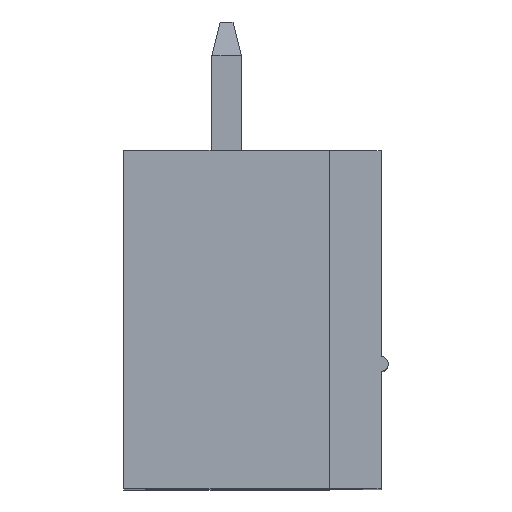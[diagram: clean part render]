
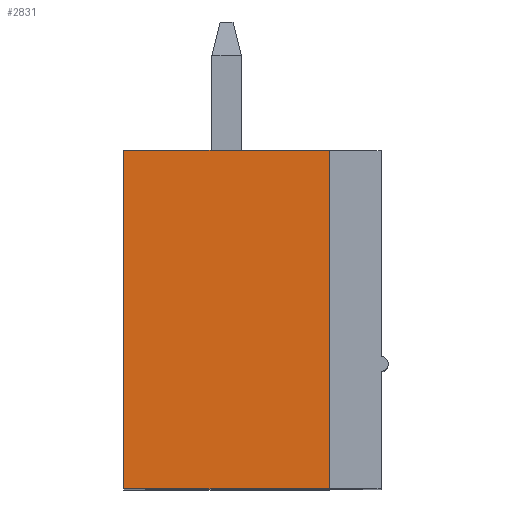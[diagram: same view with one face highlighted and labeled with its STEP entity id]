
A CAD part, top view. The second image highlights one B-rep face of the part: STEP entity #2831.
In plain terms, the highlighted planar face has unit normal (0, 0, 1).
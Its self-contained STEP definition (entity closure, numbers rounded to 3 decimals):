
#452=DIRECTION('',(0.,-1.,0.));
#453=VECTOR('',#452,9.2);
#454=CARTESIAN_POINT('',(5.775,9.2,-4.182));
#455=LINE('',#454,#453);
#456=DIRECTION('',(-1.,0.,0.));
#457=VECTOR('',#456,5.6);
#458=CARTESIAN_POINT('',(5.775,0.,-4.182));
#459=LINE('',#458,#457);
#460=DIRECTION('',(0.,1.,0.));
#461=VECTOR('',#460,9.2);
#462=CARTESIAN_POINT('',(0.175,0.,-4.182));
#463=LINE('',#462,#461);
#464=DIRECTION('',(1.,0.,0.));
#465=VECTOR('',#464,5.6);
#466=CARTESIAN_POINT('',(0.175,9.2,-4.182));
#467=LINE('',#466,#465);
#1656=CARTESIAN_POINT('',(0.175,0.,-4.182));
#1657=VERTEX_POINT('',#1656);
#1658=CARTESIAN_POINT('',(5.775,0.,-4.182));
#1659=VERTEX_POINT('',#1658);
#1784=CARTESIAN_POINT('',(0.175,9.2,-4.182));
#1785=VERTEX_POINT('',#1784);
#1838=CARTESIAN_POINT('',(5.775,9.2,-4.182));
#1839=VERTEX_POINT('',#1838);
#2820=CARTESIAN_POINT('',(3.675,4.6,-4.182));
#2821=DIRECTION('',(0.,0.,1.));
#2822=DIRECTION('',(1.,0.,0.));
#2823=AXIS2_PLACEMENT_3D('',#2820,#2821,#2822);
#2824=PLANE('',#2823);
#2825=ORIENTED_EDGE('',*,*,#2812,.T.);
#2826=ORIENTED_EDGE('',*,*,#2204,.T.);
#2827=ORIENTED_EDGE('',*,*,#2352,.T.);
#2828=ORIENTED_EDGE('',*,*,#2688,.T.);
#2829=EDGE_LOOP('',(#2825,#2826,#2827,#2828));
#2830=FACE_OUTER_BOUND('',#2829,.F.);
#2831=ADVANCED_FACE('',(#2830),#2824,.T.);
#2204=EDGE_CURVE('',#1659,#1657,#459,.T.);
#2352=EDGE_CURVE('',#1657,#1785,#463,.T.);
#2688=EDGE_CURVE('',#1785,#1839,#467,.T.);
#2812=EDGE_CURVE('',#1839,#1659,#455,.T.);
